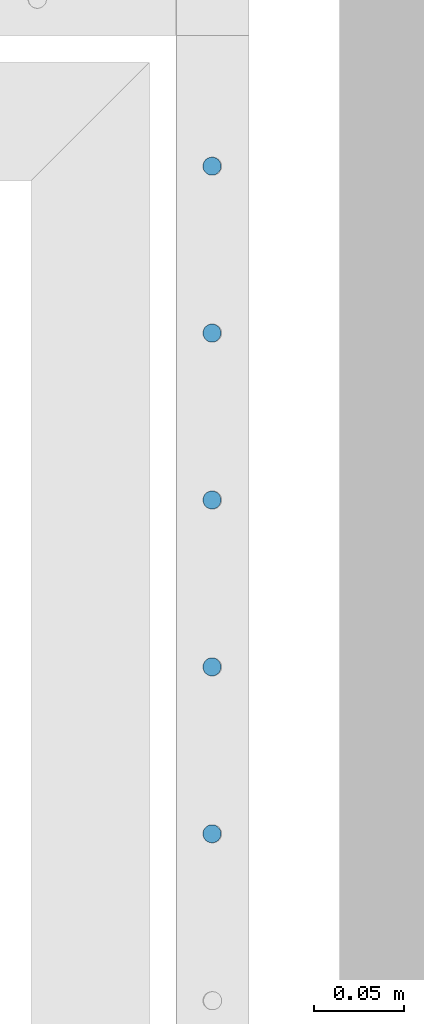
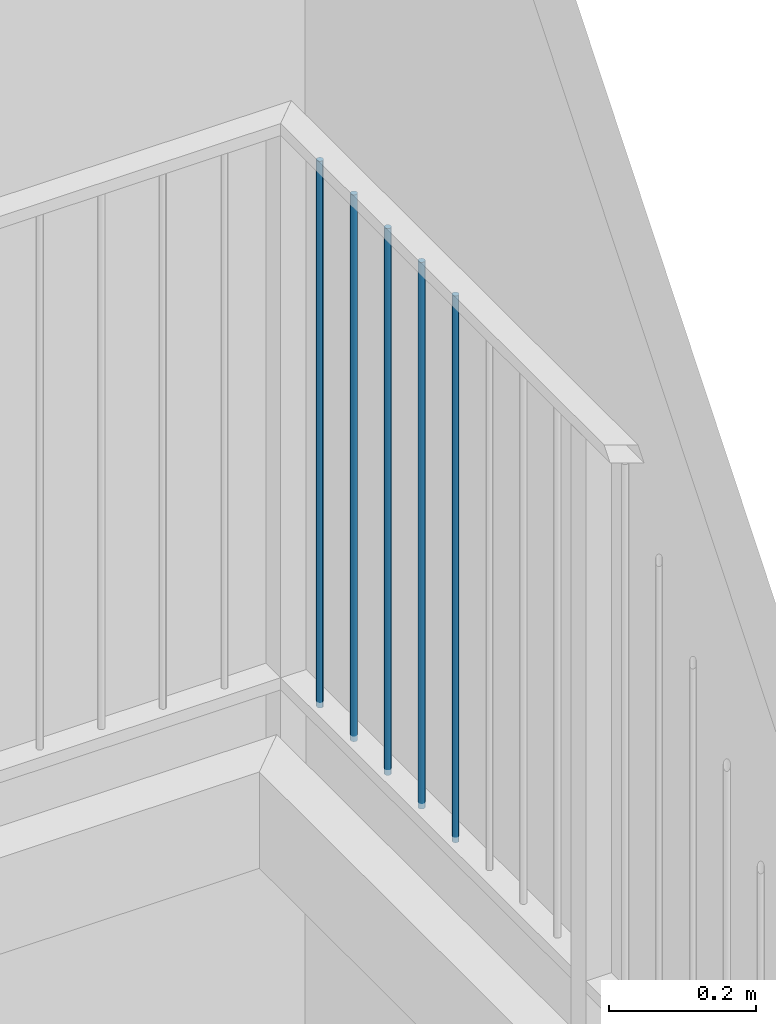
# One storey, part 43 of 135: 5 members, 1 element without a shape of its own.
"""IFC2X3 building model written with IfcOpenShell, lengths in millimetres."""

from ifc_helpers import new_model, entity, si_unit, converted_unit, derived_unit, money_unit, direction, frame, origin_with_axes, place, context, subcontext, project, spatial, faceted_brep, source, transform, mapped, material, type_object, type_shapes, element, aggregate, save


model = new_model("IFC2X3")

# Units and contexts
model_context = context("Model", 3, precision=0.01, world=origin_with_axes(), true_north=direction((0.0, 1.0)))
body_context = subcontext(model_context, "Body", "Model", "MODEL_VIEW")
ifc_project = project(units=[si_unit("LENGTHUNIT", "METRE", prefix="MILLI"), si_unit("AREAUNIT", "SQUARE_METRE"), si_unit("VOLUMEUNIT", "CUBIC_METRE"), converted_unit("PLANEANGLEUNIT", "DEGREE", entity("IfcPlaneAngleMeasure", 0.0174532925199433), si_unit("PLANEANGLEUNIT", "RADIAN"), dimensions=[0, 0, 0, 0, 0, 0, 0]), money_unit("EUR"), converted_unit("TIMEUNIT", "Year", entity("IfcTimeMeasure", 31557600.0), si_unit("TIMEUNIT", "SECOND"), dimensions=[0, 0, 1, 0, 0, 0, 0]), si_unit("MASSUNIT", "GRAM", prefix="KILO"), si_unit("THERMODYNAMICTEMPERATUREUNIT", "DEGREE_CELSIUS"), si_unit("LUMINOUSINTENSITYUNIT", "LUMEN"), si_unit("ENERGYUNIT", "JOULE", prefix="MEGA"), derived_unit("THERMALCONDUCTANCEUNIT", [(si_unit("POWERUNIT", "WATT"), 1), (si_unit("LENGTHUNIT", "METRE"), -1), (si_unit("THERMODYNAMICTEMPERATUREUNIT", "KELVIN"), -1)]), derived_unit("SPECIFICHEATCAPACITYUNIT", [(si_unit("ENERGYUNIT", "JOULE"), 1), (si_unit("MASSUNIT", "GRAM", prefix="KILO"), -1), (si_unit("THERMODYNAMICTEMPERATUREUNIT", "KELVIN"), -1)]), derived_unit("MASSDENSITYUNIT", [(si_unit("MASSUNIT", "GRAM", prefix="KILO"), 1), (si_unit("VOLUMEUNIT", "CUBIC_METRE"), -1)])], contexts=[model_context])

# Site, building, storey
site_placement = place(None, origin_with_axes())
site = spatial("IfcSite", under=ifc_project, at=site_placement, Name="Site", CompositionType="ELEMENT")
building_placement = place(site_placement, origin_with_axes())
building = spatial("IfcBuilding", under=site, at=building_placement, Name="Naam gebouw", CompositionType="ELEMENT")
storey_placement = place(building_placement, origin_with_axes())
storey = spatial("IfcBuildingStorey", under=building, at=storey_placement, Name="Begane grond N", CompositionType="ELEMENT", Elevation=0.0)

# Railing, members
railing_type = type_object("IfcRailingType", Name="Railing Type", PredefinedType="NOTDEFINED")
railing_placement = place(storey_placement, frame((56236.62159597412, 21185.9124251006, 157.4646725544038), z_axis=(0.0, 0.0, 1.0), x_axis=(1.0, 0.0, 0.0)))
railing = element("IfcRailing", 1, at=railing_placement, inside=storey, type_object=railing_type, Name="_Reling-x", PredefinedType="NOTDEFINED")
ifc_material = material(Name="Metaal - Staal C")
member_type = type_object("IfcMemberType", Name="IfcMember", PredefinedType="MEMBER")
shared_shape = source(origin_with_axes(), body_context, "Body", "Brep", [
    faceted_brep([(0.0, -5.0, 0.0), (0.8682408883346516, -4.92403876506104, 0.0), (0.868240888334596, -4.92403876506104, 907.5000000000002), (0.0, -5.0, 907.5000000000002), (-0.868240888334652, -4.92403876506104, 0.0), (-1.710100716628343, -4.698463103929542, 0.0), (-2.500000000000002, -4.330127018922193, 0.0), (-3.213938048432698, -3.830222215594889, 0.0), (-3.830222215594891, -3.213938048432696, 0.0), (-4.330127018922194, -2.5, 0.0), (-4.698463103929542, -1.710100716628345, 0.0), (-4.924038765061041, -0.86824088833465, 0.0), (-5.0, 0.0, 0.0), (-4.92403876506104, 0.8682408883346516, 0.0), (-4.698463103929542, 1.710100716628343, 0.0), (-4.330127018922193, 2.500000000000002, 0.0), (-3.83022221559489, 3.213938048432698, 0.0), (-3.213938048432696, 3.83022221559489, 0.0), (-2.5, 4.330127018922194, 0.0), (-1.710100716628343, 4.698463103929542, 0.0), (-0.8682408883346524, 4.92403876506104, 0.0), (0.0, 5.0, 0.0), (0.8682408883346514, 4.92403876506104, 0.0), (1.710100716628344, 4.698463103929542, 0.0), (2.5, 4.330127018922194, 0.0), (3.213938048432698, 3.83022221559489, 0.0), (3.83022221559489, 3.213938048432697, 0.0), (4.330127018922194, 2.499999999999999, 0.0), (4.698463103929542, 1.710100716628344, 0.0), (4.92403876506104, 0.8682408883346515, 0.0), (5.0, 0.0, 0.0), (4.92403876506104, -0.8682408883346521, 0.0), (4.698463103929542, -1.710100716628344, 0.0), (4.330127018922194, -2.5, 0.0), (3.83022221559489, -3.213938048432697, 0.0), (3.213938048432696, -3.83022221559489, 0.0), (2.5, -4.330127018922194, 0.0), (1.710100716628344, -4.698463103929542, 0.0), (1.710100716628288, -4.698463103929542, 907.5000000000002), (2.499999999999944, -4.330127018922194, 907.5000000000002), (3.213938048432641, -3.83022221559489, 907.5000000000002), (3.830222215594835, -3.213938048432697, 907.5000000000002), (4.330127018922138, -2.5, 907.5000000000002), (4.698463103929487, -1.710100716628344, 907.5000000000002), (4.924038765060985, -0.8682408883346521, 907.5000000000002), (4.999999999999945, 0.0, 907.5000000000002), (4.924038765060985, 0.8682408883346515, 907.5000000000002), (4.698463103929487, 1.710100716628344, 907.5000000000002), (4.330127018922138, 2.499999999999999, 907.5000000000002), (3.830222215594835, 3.213938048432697, 907.5000000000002), (3.213938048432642, 3.83022221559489, 907.5000000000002), (2.499999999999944, 4.330127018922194, 907.5000000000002), (1.710100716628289, 4.698463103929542, 907.5000000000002), (0.8682408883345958, 4.92403876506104, 907.5000000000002), (0.0, 5.0, 907.5000000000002), (-0.868240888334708, 4.92403876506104, 907.5000000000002), (-1.710100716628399, 4.698463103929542, 907.5000000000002), (-2.500000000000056, 4.330127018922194, 907.5000000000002), (-3.213938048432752, 3.83022221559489, 907.5000000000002), (-3.830222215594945, 3.213938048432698, 907.5000000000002), (-4.330127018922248, 2.500000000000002, 907.5000000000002), (-4.698463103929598, 1.710100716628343, 907.5000000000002), (-4.924038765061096, 0.8682408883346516, 907.5000000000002), (-5.000000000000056, 0.0, 907.5000000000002), (-4.924038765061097, -0.86824088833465, 907.5000000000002), (-4.698463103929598, -1.710100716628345, 907.5000000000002), (-4.330127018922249, -2.5, 907.5000000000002), (-3.830222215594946, -3.213938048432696, 907.5000000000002), (-3.213938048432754, -3.830222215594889, 907.5000000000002), (-2.500000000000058, -4.330127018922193, 907.5000000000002), (-1.710100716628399, -4.698463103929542, 907.5000000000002), (-0.8682408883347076, -4.92403876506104, 907.5000000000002)], [[[0, 1, 2, 3]], [[0, 4, 5, 6, 7, 8, 9, 10, 11, 12, 13, 14, 15, 16, 17, 18, 19, 20, 21, 22, 23, 24, 25, 26, 27, 28, 29, 30, 31, 32, 33, 34, 35, 36, 37, 1]], [[1, 37, 38, 2]], [[3, 2, 38, 39, 40, 41, 42, 43, 44, 45, 46, 47, 48, 49, 50, 51, 52, 53, 54, 55, 56, 57, 58, 59, 60, 61, 62, 63, 64, 65, 66, 67, 68, 69, 70, 71]], [[4, 0, 3, 71]], [[5, 4, 71, 70]], [[6, 5, 70, 69]], [[7, 6, 69, 68]], [[8, 7, 68, 67]], [[9, 8, 67, 66]], [[10, 9, 66, 65]], [[11, 10, 65, 64]], [[12, 11, 64, 63]], [[13, 12, 63, 62]], [[14, 13, 62, 61]], [[15, 14, 61, 60]], [[16, 15, 60, 59]], [[17, 16, 59, 58]], [[18, 17, 58, 57]], [[19, 18, 57, 56]], [[20, 19, 56, 55]], [[21, 20, 55, 54]], [[22, 21, 54, 53]], [[23, 22, 53, 52]], [[24, 23, 52, 51]], [[25, 24, 51, 50]], [[26, 25, 50, 49]], [[27, 26, 49, 48]], [[28, 27, 48, 47]], [[29, 28, 47, 46]], [[30, 29, 46, 45]], [[31, 30, 45, 44]], [[32, 31, 44, 43]], [[33, 32, 43, 42]], [[34, 33, 42, 41]], [[35, 34, 41, 40]], [[36, 35, 40, 39]], [[37, 36, 39, 38]]]),
])
type_shapes(member_type, [shared_shape])
member_1_placement = place(railing_placement, frame((3908.03766228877, 2003.888888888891, 2000.208938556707), z_axis=(0.0, 0.0, 1.0), x_axis=(1.0, 0.0, 0.0)))
member_1 = element("IfcMember", 2, at=member_1_placement, type_object=member_type, material=ifc_material, Name="_Spijlen-x", ObjectType="MEMBER", context=body_context, shape_type="MappedRepresentation", body=[
    mapped(shared_shape, transform((0.0, 0.0, 0.0))),
])
member_2_placement = place(railing_placement, frame((3908.03766228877, 2188.333333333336, 2000.208938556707), z_axis=(0.0, 0.0, 1.0), x_axis=(1.0, 0.0, 0.0)))
member_2 = element("IfcMember", 3, at=member_2_placement, type_object=member_type, material=ifc_material, Name="_Spijlen-x", ObjectType="MEMBER", context=body_context, shape_type="MappedRepresentation", body=[
    mapped(shared_shape, transform((0.0, 0.0, 0.0))),
])
member_3_placement = place(railing_placement, frame((3908.03766228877, 2280.555555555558, 2000.208938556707), z_axis=(0.0, 0.0, 1.0), x_axis=(1.0, 0.0, 0.0)))
member_3 = element("IfcMember", 4, at=member_3_placement, type_object=member_type, material=ifc_material, Name="_Spijlen-x", ObjectType="MEMBER", context=body_context, shape_type="MappedRepresentation", body=[
    mapped(shared_shape, transform((0.0, 0.0, 0.0))),
])
member_4_placement = place(railing_placement, frame((3908.03766228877, 2372.777777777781, 2000.208938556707), z_axis=(0.0, 0.0, 1.0), x_axis=(1.0, 0.0, 0.0)))
member_4 = element("IfcMember", 5, at=member_4_placement, type_object=member_type, material=ifc_material, Name="_Spijlen-x", ObjectType="MEMBER", context=body_context, shape_type="MappedRepresentation", body=[
    mapped(shared_shape, transform((0.0, 0.0, 0.0))),
])
member_5_placement = place(railing_placement, frame((3908.03766228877, 2096.111111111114, 2000.208938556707), z_axis=(0.0, 0.0, 1.0), x_axis=(1.0, 0.0, 0.0)))
member_5 = element("IfcMember", 6, at=member_5_placement, type_object=member_type, material=ifc_material, Name="_Spijlen-x", ObjectType="MEMBER", context=body_context, shape_type="MappedRepresentation", body=[
    mapped(shared_shape, transform((0.0, 0.0, 0.0))),
])
aggregate(railing, [member_1, member_2, member_3, member_4, member_5])

save(model, "model.ifc")
